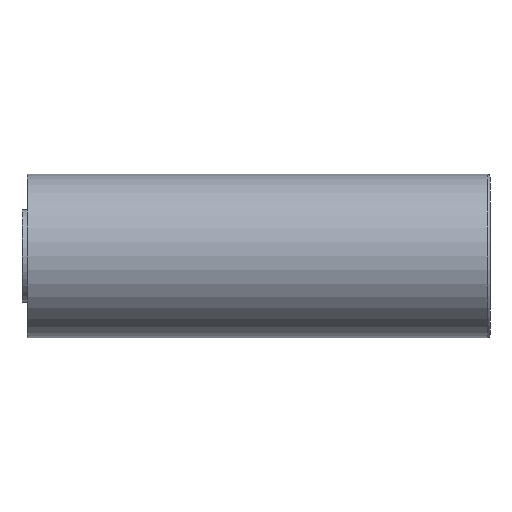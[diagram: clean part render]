
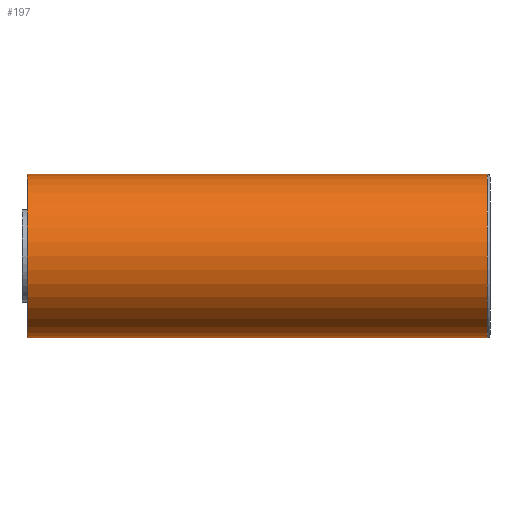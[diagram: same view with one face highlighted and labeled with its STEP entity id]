
A CAD part, front view. The second image highlights one B-rep face of the part: STEP entity #197.
In plain terms, the highlighted cylindrical face has radius 3 mm (diameter 6 mm), a full revolution.
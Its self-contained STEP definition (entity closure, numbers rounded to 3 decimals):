
#197 = ADVANCED_FACE( '', ( #290, #291 ), #292, .T. );
#290 = FACE_OUTER_BOUND( '', #423, .T. );
#291 = FACE_OUTER_BOUND( '', #424, .T. );
#292 = CYLINDRICAL_SURFACE( '', #425, 3. );
#423 = EDGE_LOOP( '', ( #707 ) );
#424 = EDGE_LOOP( '', ( #708 ) );
#425 = AXIS2_PLACEMENT_3D( '', #709, #710, #711 );
#707 = ORIENTED_EDGE( '', *, *, #885, .T. );
#708 = ORIENTED_EDGE( '', *, *, #947, .F. );
#709 = CARTESIAN_POINT( '', ( 15.86, 0., 0. ) );
#710 = DIRECTION( '', ( -1., 0., 0. ) );
#711 = DIRECTION( '', ( 0., 0., -1. ) );
#885 = EDGE_CURVE( '', #1003, #1003, #1004, .T. );
#947 = EDGE_CURVE( '', #1107, #1107, #1108, .T. );
#1003 = VERTEX_POINT( '', #1200 );
#1004 = CIRCLE( '', #1201, 3. );
#1107 = VERTEX_POINT( '', #1364 );
#1108 = CIRCLE( '', #1365, 3. );
#1200 = CARTESIAN_POINT( '', ( -1.14, 0., -3. ) );
#1201 = AXIS2_PLACEMENT_3D( '', #1461, #1462, #1463 );
#1364 = CARTESIAN_POINT( '', ( 15.76, 0., -3. ) );
#1365 = AXIS2_PLACEMENT_3D( '', #1527, #1528, #1529 );
#1461 = CARTESIAN_POINT( '', ( -1.14, 0., 0. ) );
#1462 = DIRECTION( '', ( 1., 0., 0. ) );
#1463 = DIRECTION( '', ( 0., 0., -1. ) );
#1527 = CARTESIAN_POINT( '', ( 15.76, 0., 0. ) );
#1528 = DIRECTION( '', ( 1., 0., 0. ) );
#1529 = DIRECTION( '', ( 0., 0., -1. ) );
